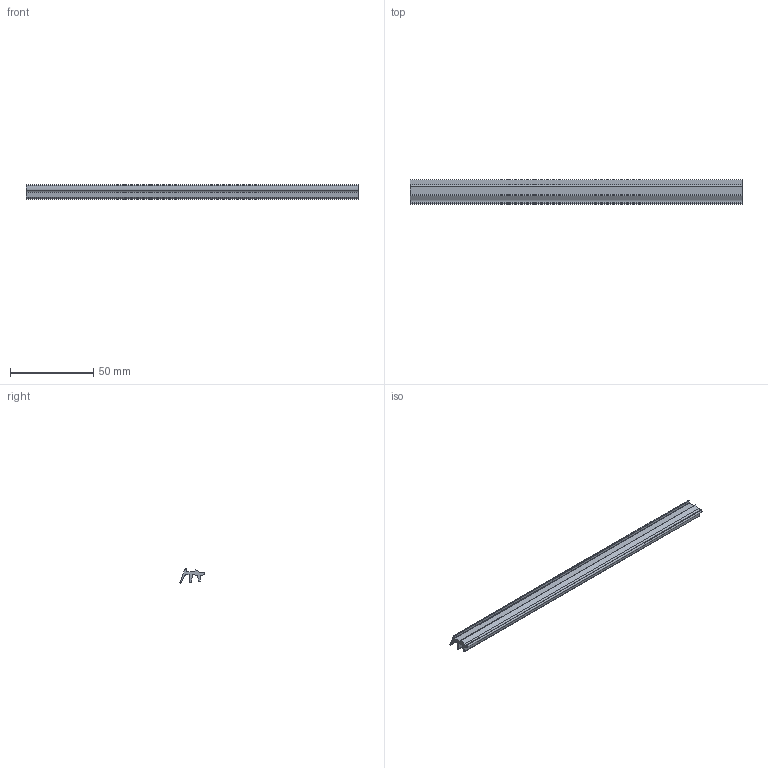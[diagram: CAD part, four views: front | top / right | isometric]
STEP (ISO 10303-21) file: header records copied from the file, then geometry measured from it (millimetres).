
FILE_DESCRIPTION (( 'STEP AP214' ), '1' );
FILE_NAME ('1.6020 Paneelitiiviste 4.STEP', '2024-03-13T12:24:41', ( '' ), ( '' ), 'SwSTEP 2.0', 'SolidWorks 2024', '' );
FILE_SCHEMA (( 'AUTOMOTIVE_DESIGN' ));
Length unit declared in the file: millimetre
Products named in the file (1): 1.6020 Paneelitiiviste 4
Bounding box: 200 x 14.7 x 8.6 mm (x, y, z)
Volume: 8734.8 mm3; surface area: 11389.9 mm2
Topology: 1 solids, 1 shells, 34 faces, 96 edges, 64 vertices
Faces by surface type: cylinder 19, plane 15
Entity records: 1515 total; most frequent: DIRECTION 204, CARTESIAN_POINT 195, ORIENTED_EDGE 192, EDGE_CURVE 96, AXIS2_PLACEMENT_3D 73, VERTEX_POINT 64, LINE 58, VECTOR 58
